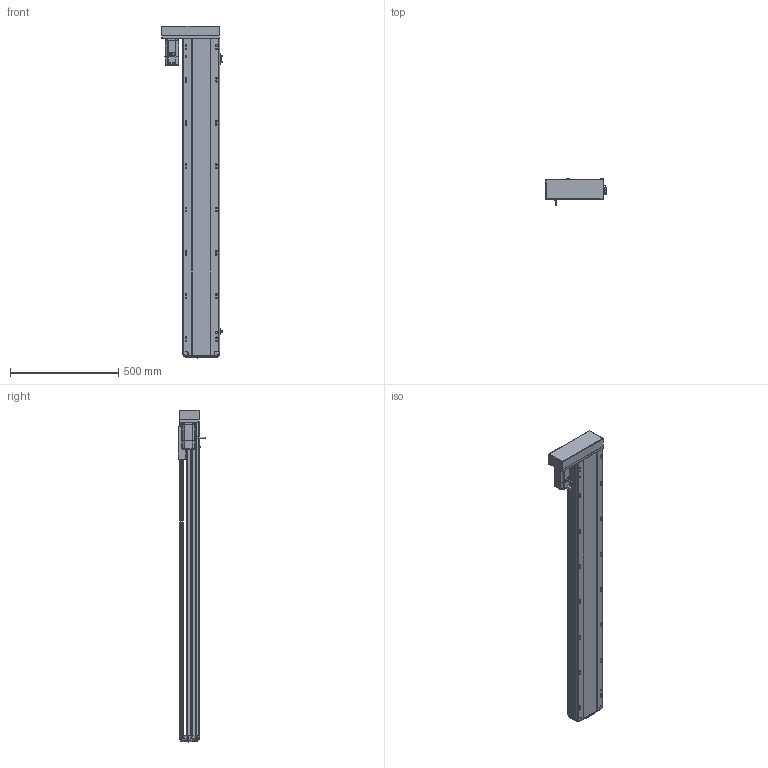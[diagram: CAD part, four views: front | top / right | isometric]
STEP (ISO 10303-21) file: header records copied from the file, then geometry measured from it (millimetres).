
FILE_DESCRIPTION (( 'STEP AP214' ), '1' );
FILE_NAME ('RTH17-XX-1250-R-M40-C4.STEP', '2025-10-24T09:00:46', ( '' ), ( '' ), 'SwSTEP 2.0', 'SolidWorks 2018', '' );
FILE_SCHEMA (( 'AUTOMOTIVE_DESIGN' ));
Length unit declared in the file: millimetre
Products named in the file (10): N_RTH17-GY-001P^RTH17-XX-XX-R-M40-C4（方程式）; N_M40^RTH17-XX-XX-R-M40-C4（方程式）; N_RTH17-E-004丝杆螺母连接座^RTH17-XX-XX-R-M40-C4（方程式）; RTH17-XX-1250-R-M40-C4; N_RTH17-L-008-P40电机安装板左转折^RTH17-XX-XX-R-M40-C4（方程式）; N_RTH17-M-007上盖^RTH17-XX-XX-R-M40-C4（方程式）; N_RTH17-L-018盖子^RTH17-XX-XX-R-M40-C4（方程式）; N_RTH-BL-012 感应片(外置)^RTH17-XX-XX-R-M40-C4（方程式）; N_OMRON EE-SX672 換覜ん^RTH17-XX-XX-R-M40-C4ㄗ源最宒ㄘ; N_RTH17-M-011底座^RTH17-XX-XX-R-M40-C4（方程式）
Assembly tree (11 placements, depth 2):
  RTH17-XX-1250-R-M40-C4
    N_RTH17-M-011底座^RTH17-XX-XX-R-M40-C4（方程式）
    N_RTH17-M-007上盖^RTH17-XX-XX-R-M40-C4（方程式）
    N_M40^RTH17-XX-XX-R-M40-C4（方程式）
    N_OMRON EE-SX672 換覜ん^RTH17-XX-XX-R-M40-C4ㄗ源最宒ㄘ  x3
    N_RTH-BL-012 感应片(外置)^RTH17-XX-XX-R-M40-C4（方程式）
    N_RTH17-L-008-P40电机安装板左转折^RTH17-XX-XX-R-M40-C4（方程式）
    N_RTH17-L-018盖子^RTH17-XX-XX-R-M40-C4（方程式）
    N_RTH17-E-004丝杆螺母连接座^RTH17-XX-XX-R-M40-C4（方程式）
    N_RTH17-GY-001P^RTH17-XX-XX-R-M40-C4（方程式）
Bounding box: 280.5 x 127 x 1532.99 mm (x, y, z)
Volume: 12598633.2 mm3; surface area: 1603208.9 mm2
Topology: 13 solids, 15 shells, 1695 faces, 4737 edges, 3090 vertices
Faces by surface type: plane 839, cylinder 489, bspline 330, cone 28, torus 9
Entity records: 50010 total; most frequent: CARTESIAN_POINT 20143, ORIENTED_EDGE 6498, DIRECTION 5359, EDGE_CURVE 3253, VERTEX_POINT 2126, VECTOR 1801, LINE 1801, AXIS2_PLACEMENT_3D 1779
